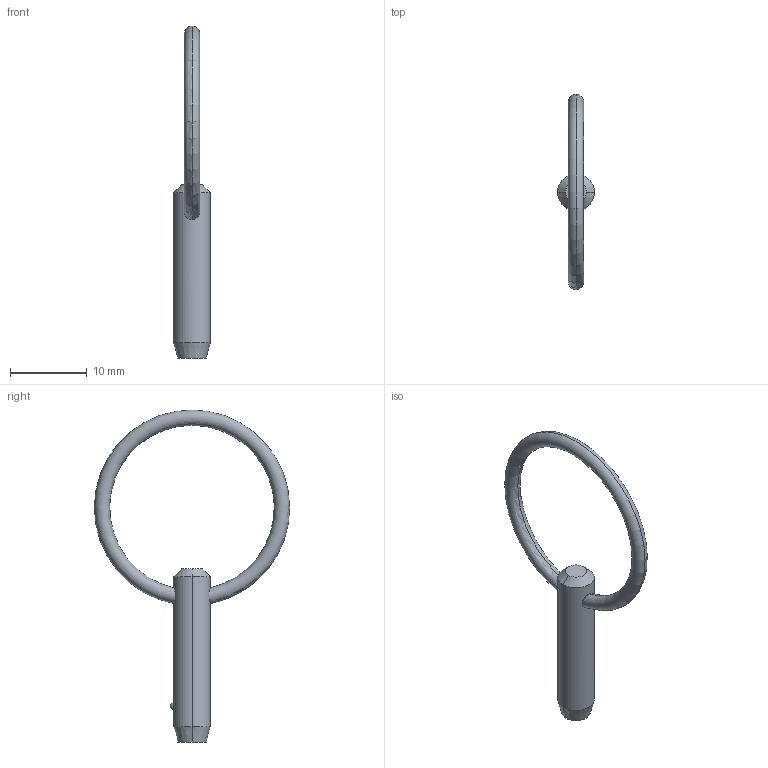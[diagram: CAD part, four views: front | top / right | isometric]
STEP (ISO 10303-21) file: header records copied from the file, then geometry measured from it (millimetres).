
FILE_DESCRIPTION (( 'STEP AP203' ), '1' );
FILE_NAME ('P1250.018-050.step', '2019-07-29T19:29:30', ( '' ), ( '' ), 'SwSTEP 2.0', 'SolidWorks 2017', '' );
FILE_SCHEMA (( 'CONFIG_CONTROL_DESIGN' ));
Length unit declared in the file: millimetre
Products named in the file (1): P1250.018-050
Bounding box: 4.76 x 25.4 x 43.18 mm (x, y, z)
Volume: 603.3 mm3; surface area: 780 mm2
Topology: 1 solids, 1 shells, 12 faces, 28 edges, 17 vertices
Faces by surface type: cone 4, torus 2, sphere 2, cylinder 2, plane 2
Entity records: 471 total; most frequent: CARTESIAN_POINT 138, DIRECTION 56, ORIENTED_EDGE 48, AXIS2_PLACEMENT_3D 25, EDGE_CURVE 24, VERTEX_POINT 15, EDGE_LOOP 15, FACE_OUTER_BOUND 12
